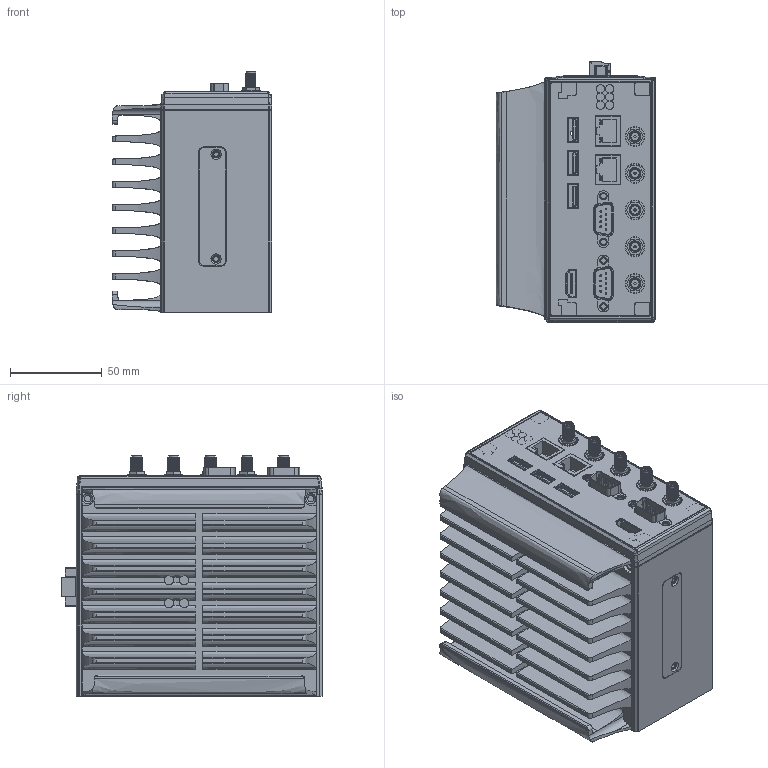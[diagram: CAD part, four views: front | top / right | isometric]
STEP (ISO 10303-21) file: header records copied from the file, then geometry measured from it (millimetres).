
FILE_DESCRIPTION((''),'2;1');
FILE_NAME('00_MC_1200_ASSY_ASM_1_ASM','2019-12-19T14:07:57',('BensonYC_Lee'),('PTC'),'CREO PARAMETRIC BY PTC INC, 2018020','CREO PARAMETRIC BY PTC INC, 2018020','');
FILE_SCHEMA(('AUTOMOTIVE_DESIGN { 1 0 10303 214 1 1 1 1 }'));
Products named in the file (120): MC_1200_FRAME_AF0_1_1; MC_1200_FRAME_AF0_1_2; MC_1200_FRAME_AF0_1_ASM; MC_1200_STANDOFF_5_4H_AF0_1; MC_1200_STANDOFF_5_4H_AF1_1; MC_1200_STANDOFF_8_5H_AF0_1; MC_1200_GUIDE_PIN_AF0_1; MC_1200_FRAME_ASSY_AF0_ASM_1_ASM; MC_1200_CORE_PCB_AF0_1_1; MC_1200_CORE_PCB_AF0_1_2; MC_1200_CORE_PCB_AF0_1_3; MC_1200_CORE_PCB_AF0_1_ASM; MC_1200_DDR4_AF0_1; MC_1200_CPU_AF0_1; MC_1200_USB_AF0_1_1; MC_1200_USB_AF0_1_2; MC_1200_USB_AF0_1_ASM; MC_1200_USB_AF1_1_1; MC_1200_USB_AF1_1_2; MC_1200_USB_AF1_1_ASM; MC_1200_USB_AF2_1_1; MC_1200_USB_AF2_1_2; MC_1200_USB_AF2_1_ASM; MC_1200_HDMI_180_AF0_1_1; MC_1200_HDMI_180_AF0_1_2; MC_1200_HDMI_180_AF0_1_3; MC_1200_HDMI_180_AF0_1_ASM; MC_1200_FX18_80S_0_8SV15_AF0_1; MC_1200_CPU_BKT_AF0_1; MC_1200_CPU_BKT_ADHESIVE_AF0_1; MC_1200_CORE_PCBA_AF0_ASM_1_ASM; MC_1200_IO_PCB_AF0_1; MC_1200_1111000000800_TB3P_AF_1; MC_1200_1111000000800_TB3P_AF_2; MC_1200_1111000000800_TB3P_AF_3; MC_1200_1111000000800_TB3P_AF_4; MC_1200_1111000000800_TB3P_AF0__ASM; MC_1200_1126801052112_MIC-77284; MC_1200_1126801052112_MIC-80507; MC_1200_1126801052112_MIC-83731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
Assembly tree (120 placements, depth 4):
  00_MC_1200_ASSY_ASM_1_ASM
    MC_1200_FRAME_ASSY_AF0_ASM_1_ASM
      MC_1200_FRAME_AF0_1_ASM
        MC_1200_FRAME_AF0_1_1
        MC_1200_FRAME_AF0_1_2
      MC_1200_STANDOFF_5_4H_AF0_1
      MC_1200_STANDOFF_5_4H_AF1_1
      MC_1200_STANDOFF_8_5H_AF0_1
      MC_1200_GUIDE_PIN_AF0_1
    MC_1200_CORE_PCBA_AF0_ASM_1_ASM
      MC_1200_CORE_PCB_AF0_1_ASM
        MC_1200_CORE_PCB_AF0_1_1
        MC_1200_CORE_PCB_AF0_1_2
        MC_1200_CORE_PCB_AF0_1_3
      MC_1200_DDR4_AF0_1
      MC_1200_CPU_AF0_1
      MC_1200_USB_AF0_1_ASM
        MC_1200_USB_AF0_1_1
        MC_1200_USB_AF0_1_2
      MC_1200_USB_AF1_1_ASM
        MC_1200_USB_AF1_1_1
        MC_1200_USB_AF1_1_2
      MC_1200_USB_AF2_1_ASM
        MC_1200_USB_AF2_1_1
        MC_1200_USB_AF2_1_2
      MC_1200_HDMI_180_AF0_1_ASM
        MC_1200_HDMI_180_AF0_1_1
        MC_1200_HDMI_180_AF0_1_2
        MC_1200_HDMI_180_AF0_1_3
      MC_1200_FX18_80S_0_8SV15_AF0_1
      MC_1200_CPU_BKT_AF0_1
      MC_1200_CPU_BKT_ADHESIVE_AF0_1
    MC_1200_IO_PCBA_AF0_ASM_1_ASM
      MC_1200_IO_PCB_AF0_1
      MC_1200_1111000000800_TB3P_AF0__ASM
        MC_1200_1111000000800_TB3P_AF_1
        MC_1200_1111000000800_TB3P_AF_2
        MC_1200_1111000000800_TB3P_AF_3
        MC_1200_1111000000800_TB3P_AF_4
      MC_1200_1126801052112_MIC-77284
      MC_1200_1126801052112_MIC-80507
      MC_1200_1126801052112_MIC-83731
      MC_1200_1126801052112_MIC-86954
      MC_1200_1126801021115_MPCIE_AF0_ASM
        MC_1200_1126801021115_MPC-87112
        MC_1200_PCB_MPCIE_AF0_1
        MC_1200_SMD_NUT_M2_7_5MM_AF0_1
        MC_1200_SMD_NUT_M2_7_5MM_AF1_1
      MC_1200_1126801021115_MPCIE_AF2_ASM
        MC_1200_1126801021115_MPC-87776
        MC_1200_PCB_MPCIE_AF1_1
        MC_1200_SMD_NUT_M2_7_5MM_AF2_1
        MC_1200_SMD_NUT_M2_7_5MM_AF3_1
      MC_1200_1126801021115_MPCIE_AF4_ASM
        MC_1200_1126801021115_MPC-88441
        MC_1200_PCB_MPCIE_AF2_1
        MC_1200_SMD_NUT_M2_7_5MM_AF4_1
        MC_1200_SMD_NUT_M2_7_5MM_AF5_1
      MC_1200_DT01-030S-T_AF0_1
      UC2100_1126400091224_DB9_1_ASM  x2
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Bounding box: 87 x 141.9 x 130.9 mm (x, y, z)
Volume: 292699.7 mm3; surface area: 225887.3 mm2
Topology: 75 solids, 79 shells, 4954 faces, 13595 edges, 8865 vertices
Faces by surface type: plane 2635, cylinder 1544, bspline 369, cone 229, torus 99, extrusion 40, sphere 38
Entity records: 217669 total; most frequent: CARTESIAN_POINT 57171, ORIENTED_EDGE 26792, DIRECTION 24802, EDGE_CURVE 13409, VERTEX_POINT 8763, VECTOR 8522, LINE 8482, AXIS2_PLACEMENT_3D 8140
